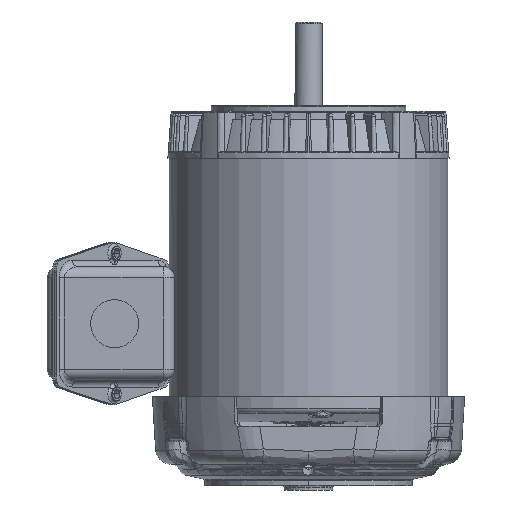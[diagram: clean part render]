
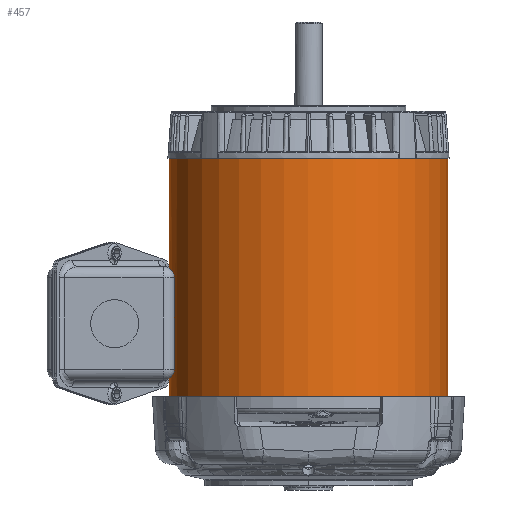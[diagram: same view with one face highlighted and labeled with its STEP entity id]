
A CAD part, front view. The second image highlights one B-rep face of the part: STEP entity #457.
In plain terms, the highlighted cylindrical face has radius 81.788 mm (diameter 163.576 mm), a partial arc.
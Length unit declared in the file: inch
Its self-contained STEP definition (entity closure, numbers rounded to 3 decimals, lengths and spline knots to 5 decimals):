
#17=CARTESIAN_POINT('',(0.,0.,-2.75));
#18=DIRECTION('',(0.,0.,1.));
#19=DIRECTION('',(-1.,0.,0.));
#20=AXIS2_PLACEMENT_3D('',#17,#18,#19);
#151=CARTESIAN_POINT('',(0.,0.,2.75));
#152=DIRECTION('',(0.,0.,1.));
#153=DIRECTION('',(-1.,0.,0.));
#154=AXIS2_PLACEMENT_3D('',#151,#152,#153);
#156=CARTESIAN_POINT('',(-3.22,0.,-1.5345));
#173=CARTESIAN_POINT('',(-3.22,0.,-0.8155));
#175=DIRECTION('',(0.,0.,1.));
#176=VECTOR('',#175,5.5);
#177=CARTESIAN_POINT('',(3.22,0.,-2.75));
#178=LINE('',#177,#176);
#207=CARTESIAN_POINT('',(-3.22,0.,-0.8155));
#208=CARTESIAN_POINT('',(-3.22,-0.02551,-0.8155));
#209=CARTESIAN_POINT('',(-3.2194,-0.07533,
-0.8208));
#210=CARTESIAN_POINT('',(-3.21686,-0.14785,
-0.84435));
#211=CARTESIAN_POINT('',(-3.21309,-0.21377,
-0.88268));
#212=CARTESIAN_POINT('',(-3.2088,-0.26991,
-0.93351));
#213=CARTESIAN_POINT('',(-3.20467,-0.31461,
-0.99561));
#214=CARTESIAN_POINT('',(-3.20149,-0.34502,
-1.06486));
#215=CARTESIAN_POINT('',(-3.19976,-0.36048,
-1.13998));
#216=CARTESIAN_POINT('',(-3.19983,-0.35988,
-1.21574));
#217=CARTESIAN_POINT('',(-3.20169,-0.34318,
-1.2907));
#218=CARTESIAN_POINT('',(-3.20494,-0.31188,
-1.35897));
#219=CARTESIAN_POINT('',(-3.20905,-0.26699,
-1.4196));
#220=CARTESIAN_POINT('',(-3.21326,-0.21118,
-1.46911));
#221=CARTESIAN_POINT('',(-3.21694,-0.14589,
-1.50644));
#222=CARTESIAN_POINT('',(-3.21942,-0.07425,
-1.52935));
#223=CARTESIAN_POINT('',(-3.22,-0.02513,-1.5345));
#224=CARTESIAN_POINT('',(-3.22,0.,-1.5345));
#226=DIRECTION('',(0.,0.,1.));
#227=VECTOR('',#226,3.5655);
#228=CARTESIAN_POINT('',(-3.22,0.,-0.8155));
#229=LINE('',#228,#227);
#230=DIRECTION('',(0.,0.,1.));
#231=VECTOR('',#230,1.2155);
#232=CARTESIAN_POINT('',(-3.22,0.,-2.75));
#233=LINE('',#232,#231);
#234=CARTESIAN_POINT('',(-3.13847,-0.72,-1.9955));
#235=CARTESIAN_POINT('',(-3.14122,-0.70804,-1.9955));
#236=CARTESIAN_POINT('',(-3.14627,-0.68538,
-1.99183));
#237=CARTESIAN_POINT('',(-3.15301,-0.65364,
-1.9757));
#238=CARTESIAN_POINT('',(-3.15801,-0.62889,
-1.95067));
#239=CARTESIAN_POINT('',(-3.1611,-0.61311,
-1.9195));
#240=CARTESIAN_POINT('',(-3.16213,-0.6077,
-1.88488));
#241=CARTESIAN_POINT('',(-3.1611,-0.61309,
-1.85056));
#242=CARTESIAN_POINT('',(-3.15799,-0.629,
-1.81915));
#243=CARTESIAN_POINT('',(-3.153,-0.65366,
-1.7943));
#244=CARTESIAN_POINT('',(-3.14626,-0.68545,
-1.77814));
#245=CARTESIAN_POINT('',(-3.14121,-0.70807,-1.7745));
#246=CARTESIAN_POINT('',(-3.13847,-0.72,-1.7745));
#248=CARTESIAN_POINT('',(-3.13847,-0.72,-1.7745));
#249=CARTESIAN_POINT('',(-3.13572,-0.732,-1.7745));
#250=CARTESIAN_POINT('',(-3.13037,-0.7547,
-1.77818));
#251=CARTESIAN_POINT('',(-3.1225,-0.78658,
-1.79444));
#252=CARTESIAN_POINT('',(-3.11614,-0.8113,
-1.81959));
#253=CARTESIAN_POINT('',(-3.11201,-0.82694,
-1.85072));
#254=CARTESIAN_POINT('',(-3.11058,-0.83227,
-1.88512));
#255=CARTESIAN_POINT('',(-3.112,-0.82696,
-1.91921));
#256=CARTESIAN_POINT('',(-3.11617,-0.81119,
-1.95057));
#257=CARTESIAN_POINT('',(-3.1225,-0.78658,
-1.97554));
#258=CARTESIAN_POINT('',(-3.13038,-0.75465,
-1.99184));
#259=CARTESIAN_POINT('',(-3.13572,-0.73198,-1.9955));
#260=CARTESIAN_POINT('',(-3.13847,-0.72,-1.9955));
#282=CARTESIAN_POINT('',(3.22,0.,-2.75));
#283=CARTESIAN_POINT('',(-3.22,0.,-2.75));
#284=VERTEX_POINT('',#282);
#285=VERTEX_POINT('',#283);
#290=CARTESIAN_POINT('',(3.22,0.,2.75));
#291=CARTESIAN_POINT('',(-3.22,0.,2.75));
#292=VERTEX_POINT('',#290);
#293=VERTEX_POINT('',#291);
#300=VERTEX_POINT('',#156);
#301=VERTEX_POINT('',#173);
#304=VERTEX_POINT('',#234);
#305=VERTEX_POINT('',#246);
#438=CARTESIAN_POINT('',(0.,0.,-2.75));
#439=DIRECTION('',(0.,0.,1.));
#440=DIRECTION('',(1.,0.,0.));
#441=AXIS2_PLACEMENT_3D('',#438,#439,#440);
#442=CYLINDRICAL_SURFACE('',#441,3.22);
#443=ORIENTED_EDGE('',*,*,#357,.F.);
#444=ORIENTED_EDGE('',*,*,#427,.T.);
#445=ORIENTED_EDGE('',*,*,#406,.T.);
#446=ORIENTED_EDGE('',*,*,#424,.F.);
#447=ORIENTED_EDGE('',*,*,#313,.F.);
#448=ORIENTED_EDGE('',*,*,#421,.T.);
#449=EDGE_LOOP('',(#443,#444,#445,#446,#447,#448));
#450=FACE_OUTER_BOUND('',#449,.F.);
#452=ORIENTED_EDGE('',*,*,#451,.F.);
#454=ORIENTED_EDGE('',*,*,#453,.F.);
#455=EDGE_LOOP('',(#452,#454));
#456=FACE_BOUND('',#455,.F.);
#457=ADVANCED_FACE('',(#450,#456),#442,.T.);
#21=CIRCLE('',#20,3.22);
#155=CIRCLE('',#154,3.22);
#225=B_SPLINE_CURVE_WITH_KNOTS('',3,(#207,#208,#209,#210,#211,#212,#213,#214,
#215,#216,#217,#218,#219,#220,#221,#222,#223,#224),.UNSPECIFIED.,.F.,.F.,(4,1,1,
1,1,1,1,1,1,1,1,1,1,1,1,4),(0.,0.06667,0.13333,0.2,
0.26667,0.33333,0.4,0.46667,0.53333,
0.6,0.66667,0.73333,0.8,0.86667,
0.93333,1.),.UNSPECIFIED.);
#247=B_SPLINE_CURVE_WITH_KNOTS('',3,(#234,#235,#236,#237,#238,#239,#240,#241,
#242,#243,#244,#245,#246),.UNSPECIFIED.,.F.,.F.,(4,1,1,1,1,1,1,1,1,1,4),(0.,
0.1,0.2,0.3,0.4,0.5,0.6,0.7,0.8,0.9,1.),.UNSPECIFIED.);
#261=B_SPLINE_CURVE_WITH_KNOTS('',3,(#248,#249,#250,#251,#252,#253,#254,#255,
#256,#257,#258,#259,#260),.UNSPECIFIED.,.F.,.F.,(4,1,1,1,1,1,1,1,1,1,4),(0.,
0.1,0.2,0.3,0.4,0.5,0.6,0.7,0.8,0.9,1.),.UNSPECIFIED.);
#313=EDGE_CURVE('',#285,#284,#21,.T.);
#357=EDGE_CURVE('',#301,#300,#225,.T.);
#406=EDGE_CURVE('',#293,#292,#155,.T.);
#421=EDGE_CURVE('',#285,#300,#233,.T.);
#424=EDGE_CURVE('',#284,#292,#178,.T.);
#427=EDGE_CURVE('',#301,#293,#229,.T.);
#451=EDGE_CURVE('',#304,#305,#247,.T.);
#453=EDGE_CURVE('',#305,#304,#261,.T.);
